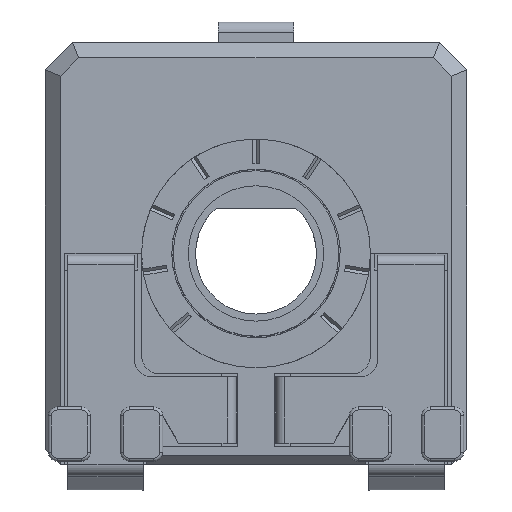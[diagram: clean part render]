
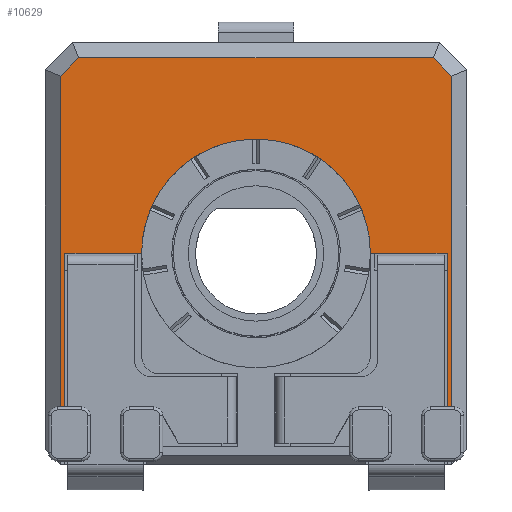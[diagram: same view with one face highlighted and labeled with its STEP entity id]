
A CAD part, top view. The second image highlights one B-rep face of the part: STEP entity #10629.
In plain terms, the highlighted planar face has unit normal (0, 0, 1).
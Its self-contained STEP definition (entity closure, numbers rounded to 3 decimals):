
#465=PLANE('',#11407);
#982=FACE_OUTER_BOUND('',#1545,.T.);
#1545=EDGE_LOOP('',(#9247,#9248,#9249,#9250,#9251,#9252,#9253,#9254,#9255,
#9256,#9257,#9258));
#1880=LINE('',#15057,#3084);
#1948=LINE('',#15310,#3152);
#2185=LINE('',#15948,#3389);
#2188=LINE('',#15953,#3392);
#2460=LINE('',#16605,#3664);
#2493=LINE('',#16732,#3697);
#2715=LINE('',#17278,#3919);
#2716=LINE('',#17281,#3920);
#2717=LINE('',#17282,#3921);
#2718=LINE('',#17285,#3922);
#2719=LINE('',#17286,#3923);
#3084=VECTOR('',#12111,10.);
#3152=VECTOR('',#12393,10.);
#3389=VECTOR('',#12922,10.);
#3392=VECTOR('',#12927,10.);
#3664=VECTOR('',#13349,10.);
#3697=VECTOR('',#13424,10.);
#3919=VECTOR('',#13946,10.);
#3920=VECTOR('',#13949,10.);
#3921=VECTOR('',#13950,10.);
#3922=VECTOR('',#13953,10.);
#3923=VECTOR('',#13954,10.);
#4279=CIRCLE('',#11408,3.8);
#4482=VERTEX_POINT('',#14858);
#4541=VERTEX_POINT('',#15056);
#4618=VERTEX_POINT('',#15307);
#4619=VERTEX_POINT('',#15309);
#4666=VERTEX_POINT('',#15463);
#4667=VERTEX_POINT('',#15465);
#4813=VERTEX_POINT('',#15944);
#4814=VERTEX_POINT('',#15946);
#5023=VERTEX_POINT('',#16601);
#5049=VERTEX_POINT('',#16731);
#5180=VERTEX_POINT('',#17280);
#5181=VERTEX_POINT('',#17284);
#5591=EDGE_CURVE('',#4541,#4482,#1880,.T.);
#5717=EDGE_CURVE('',#4619,#4618,#1948,.T.);
#6008=EDGE_CURVE('',#4814,#4813,#2185,.T.);
#6011=EDGE_CURVE('',#4813,#4618,#2188,.T.);
#6304=EDGE_CURVE('',#4541,#5023,#2460,.T.);
#6349=EDGE_CURVE('',#5023,#5049,#2493,.T.);
#6598=EDGE_CURVE('',#5049,#4814,#2715,.T.);
#6599=EDGE_CURVE('',#4482,#5180,#2716,.T.);
#6600=EDGE_CURVE('',#5180,#4667,#2717,.T.);
#6601=EDGE_CURVE('',#4667,#4666,#4279,.T.);
#6602=EDGE_CURVE('',#4666,#5181,#2718,.T.);
#6603=EDGE_CURVE('',#5181,#4619,#2719,.T.);
#9247=ORIENTED_EDGE('',*,*,#5591,.T.);
#9248=ORIENTED_EDGE('',*,*,#6599,.T.);
#9249=ORIENTED_EDGE('',*,*,#6600,.T.);
#9250=ORIENTED_EDGE('',*,*,#6601,.T.);
#9251=ORIENTED_EDGE('',*,*,#6602,.T.);
#9252=ORIENTED_EDGE('',*,*,#6603,.T.);
#9253=ORIENTED_EDGE('',*,*,#5717,.T.);
#9254=ORIENTED_EDGE('',*,*,#6011,.F.);
#9255=ORIENTED_EDGE('',*,*,#6008,.F.);
#9256=ORIENTED_EDGE('',*,*,#6598,.F.);
#9257=ORIENTED_EDGE('',*,*,#6349,.F.);
#9258=ORIENTED_EDGE('',*,*,#6304,.F.);
#10629=ADVANCED_FACE('',(#982),#465,.T.);
#11407=AXIS2_PLACEMENT_3D('',#17279,#13947,#13948);
#11408=AXIS2_PLACEMENT_3D('',#17283,#13951,#13952);
#12111=DIRECTION('',(1.,0.,0.));
#12393=DIRECTION('',(1.,0.,0.));
#12922=DIRECTION('',(0.707,-0.707,0.));
#12927=DIRECTION('',(0.,-1.,0.));
#13349=DIRECTION('',(0.,1.,0.));
#13424=DIRECTION('',(0.707,0.707,0.));
#13946=DIRECTION('',(1.,0.,0.));
#13947=DIRECTION('center_axis',(0.,0.,1.));
#13948=DIRECTION('ref_axis',(1.,0.,0.));
#13949=DIRECTION('',(0.,1.,0.));
#13950=DIRECTION('',(1.,0.,0.));
#13951=DIRECTION('center_axis',(0.,0.,-1.));
#13952=DIRECTION('ref_axis',(-1.,0.,0.));
#13953=DIRECTION('',(1.,0.,0.));
#13954=DIRECTION('',(0.,-1.,0.));
#14858=CARTESIAN_POINT('',(-13.817,-7.998,4.4));
#15056=CARTESIAN_POINT('',(-13.967,-7.998,4.4));
#15057=CARTESIAN_POINT('',(-10.217,-7.998,4.4));
#15307=CARTESIAN_POINT('',(-0.967,-7.998,4.4));
#15309=CARTESIAN_POINT('',(-1.117,-7.998,4.4));
#15310=CARTESIAN_POINT('',(-4.017,-7.998,4.4));
#15463=CARTESIAN_POINT('',(-3.667,-2.898,4.4));
#15465=CARTESIAN_POINT('',(-11.267,-2.898,4.4));
#15944=CARTESIAN_POINT('',(-0.967,2.994,4.4));
#15946=CARTESIAN_POINT('',(-1.574,3.602,4.4));
#15948=CARTESIAN_POINT('',(-1.271,3.298,4.4));
#15953=CARTESIAN_POINT('',(-0.967,0.602,4.4));
#16601=CARTESIAN_POINT('',(-13.967,2.994,4.4));
#16605=CARTESIAN_POINT('',(-13.967,-6.398,4.4));
#16731=CARTESIAN_POINT('',(-13.36,3.602,4.4));
#16732=CARTESIAN_POINT('',(-13.663,3.298,4.4));
#17278=CARTESIAN_POINT('',(-10.967,3.602,4.4));
#17279=CARTESIAN_POINT('Origin',(-7.467,-2.898,4.4));
#17280=CARTESIAN_POINT('',(-13.817,-2.898,4.4));
#17281=CARTESIAN_POINT('',(-13.817,-3.173,4.4));
#17282=CARTESIAN_POINT('',(-9.442,-2.898,4.4));
#17283=CARTESIAN_POINT('Origin',(-7.467,-2.898,4.4));
#17284=CARTESIAN_POINT('',(-1.117,-2.898,4.4));
#17285=CARTESIAN_POINT('',(-5.492,-2.898,4.4));
#17286=CARTESIAN_POINT('',(-1.117,-2.898,4.4));
